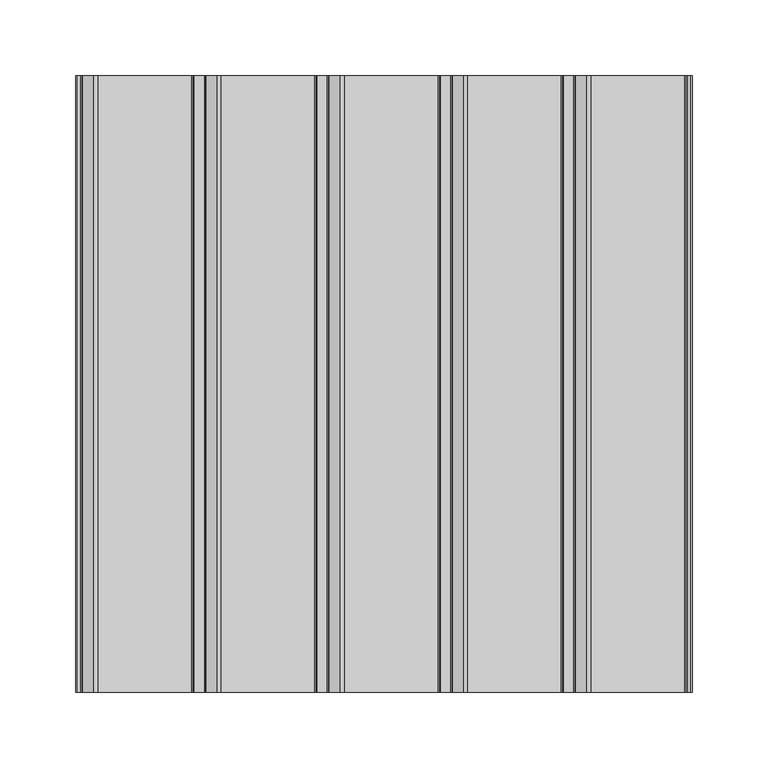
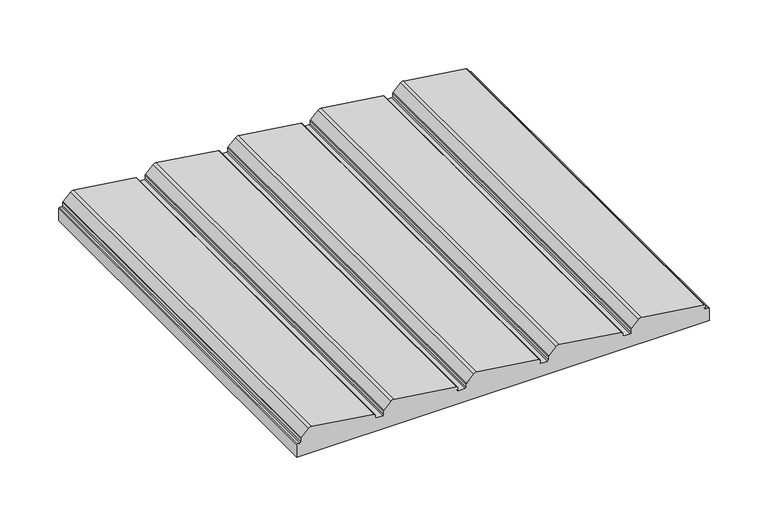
"""IFC4 building model written with IfcOpenShell, lengths in millimetres: proxy geometry, Spinneybeck_Porto 3 : Porto 3."""

from ifc_helpers import new_model, si_unit, point, frame, frame_2d, origin, place, context, project, spatial, polyline, circle_curve, trimmed, segment, composite_curve, outline, extrude, source, transform, mapped, element, save


def specialty_equipment_dc48855c(model_context):
    return source(origin(), model_context, "Body", "SweptSolid", [
        extrude(outline(composite_curve([segment(polyline([(0.0, -203.2), (0.0, 203.2), (12.5078125, 203.2)]), True, "CONTINUOUS"), segment(trimmed(circle_curve(frame_2d((12.5078125, 202.2078125)), 0.9921875), [point((12.5078125, 203.2))], [point((13.5, 202.2078125))], False, "CARTESIAN"), True, "CONTINUOUS"), segment(polyline([(13.5, 202.2078125), (13.5, 199.9465867)]), True, "CONTINUOUS"), segment(trimmed(circle_curve(frame_2d((14.4921875, 199.9465867)), 0.9921875), [point((13.5, 199.9465867))], [point((14.4921875, 198.9543992))], True, "CARTESIAN"), True, "CONTINUOUS"), segment(polyline([(14.4921875, 198.9543992), (17.1606187, 198.9543992)]), True, "CONTINUOUS"), segment(trimmed(circle_curve(frame_2d((17.1606187, 197.9749387)), 0.9794605), [point((17.1606187, 198.9543992))], [point((18.1109851, 198.2118916))], False, "CARTESIAN"), True, "CONTINUOUS"), segment(polyline([(18.1109851, 198.2118916), (26.76592, 136.6288293)]), True, "CONTINUOUS"), segment(trimmed(circle_curve(frame_2d((23.4253126, 136.1593376)), 3.3734375), [point((26.76592, 136.6288293))], [point((25.8106931, 133.773957))], False, "CARTESIAN"), True, "CONTINUOUS"), segment(polyline([(25.8106931, 133.773957), (18.5722569, 126.5355208)]), True, "CONTINUOUS"), segment(trimmed(circle_curve(frame_2d((17.6791911, 127.4285866)), 1.2629857), [point((18.5722569, 126.5355208))], [point((17.6791911, 126.1656008))], False, "CARTESIAN"), True, "CONTINUOUS"), segment(polyline([(17.6791911, 126.1656008), (14.4921875, 126.1656008)]), True, "CONTINUOUS"), segment(trimmed(circle_curve(frame_2d((14.4921875, 125.1734133)), 0.9921875), [point((14.4921875, 126.1656008))], [point((13.5, 125.1734133))], True, "CARTESIAN"), True, "CONTINUOUS"), segment(polyline([(13.5, 125.1734133), (13.5, 118.6665867)]), True, "CONTINUOUS"), segment(trimmed(circle_curve(frame_2d((14.4921875, 118.6665867)), 0.9921875), [point((13.5, 118.6665867))], [point((14.4921875, 117.6743992))], True, "CARTESIAN"), True, "CONTINUOUS"), segment(polyline([(14.4921875, 117.6743992), (17.1606187, 117.6743992)]), True, "CONTINUOUS"), segment(trimmed(circle_curve(frame_2d((17.1606187, 116.6949387)), 0.9794605), [point((17.1606187, 117.6743992))], [point((18.1109851, 116.9318916))], False, "CARTESIAN"), True, "CONTINUOUS"), segment(polyline([(18.1109851, 116.9318916), (26.76592, 55.3488293)]), True, "CONTINUOUS"), segment(trimmed(circle_curve(frame_2d((23.4253126, 54.8793376)), 3.3734375), [point((26.76592, 55.3488293))], [point((25.8106931, 52.493957))], False, "CARTESIAN"), True, "CONTINUOUS"), segment(polyline([(25.8106931, 52.493957), (18.5722569, 45.2555208)]), True, "CONTINUOUS"), segment(trimmed(circle_curve(frame_2d((17.6791911, 46.1485866)), 1.2629857), [point((18.5722569, 45.2555208))], [point((17.6791911, 44.8856008))], False, "CARTESIAN"), True, "CONTINUOUS"), segment(polyline([(17.6791911, 44.8856008), (14.4921875, 44.8856008)]), True, "CONTINUOUS"), segment(trimmed(circle_curve(frame_2d((14.4921875, 43.8934133)), 0.9921875), [point((14.4921875, 44.8856008))], [point((13.5, 43.8934133))], True, "CARTESIAN"), True, "CONTINUOUS"), segment(polyline([(13.5, 43.8934133), (13.5, 37.3865867)]), True, "CONTINUOUS"), segment(trimmed(circle_curve(frame_2d((14.4921875, 37.3865867)), 0.9921875), [point((13.5, 37.3865867))], [point((14.4921875, 36.3943992))], True, "CARTESIAN"), True, "CONTINUOUS"), segment(polyline([(14.4921875, 36.3943992), (17.1606187, 36.3943992)]), True, "CONTINUOUS"), segment(trimmed(circle_curve(frame_2d((17.1606187, 35.4149387)), 0.9794605), [point((17.1606187, 36.3943992))], [point((18.1109851, 35.6518916))], False, "CARTESIAN"), True, "CONTINUOUS"), segment(polyline([(18.1109851, 35.6518916), (26.76592, -25.9311707)]), True, "CONTINUOUS"), segment(trimmed(circle_curve(frame_2d((23.4253126, -26.4006624)), 3.3734375), [point((26.76592, -25.9311707))], [point((25.8106931, -28.786043))], False, "CARTESIAN"), True, "CONTINUOUS"), segment(polyline([(25.8106931, -28.786043), (18.5722569, -36.0244792)]), True, "CONTINUOUS"), segment(trimmed(circle_curve(frame_2d((17.6791911, -35.1314134)), 1.2629857), [point((18.5722569, -36.0244792))], [point((17.6791911, -36.3943992))], False, "CARTESIAN"), True, "CONTINUOUS"), segment(polyline([(17.6791911, -36.3943992), (14.4921875, -36.3943992)]), True, "CONTINUOUS"), segment(trimmed(circle_curve(frame_2d((14.4921875, -37.3865867)), 0.9921875), [point((14.4921875, -36.3943992))], [point((13.5, -37.3865867))], True, "CARTESIAN"), True, "CONTINUOUS"), segment(polyline([(13.5, -37.3865867), (13.5, -43.8934133)]), True, "CONTINUOUS"), segment(trimmed(circle_curve(frame_2d((14.4921875, -43.8934133)), 0.9921875), [point((13.5, -43.8934133))], [point((14.4921875, -44.8856008))], True, "CARTESIAN"), True, "CONTINUOUS"), segment(polyline([(14.4921875, -44.8856008), (17.1606187, -44.8856008)]), True, "CONTINUOUS"), segment(trimmed(circle_curve(frame_2d((17.1606187, -45.8650613)), 0.9794605), [point((17.1606187, -44.8856008))], [point((18.1109851, -45.6281084))], False, "CARTESIAN"), True, "CONTINUOUS"), segment(polyline([(18.1109851, -45.6281084), (26.76592, -107.2111707)]), True, "CONTINUOUS"), segment(trimmed(circle_curve(frame_2d((23.4253126, -107.6806624)), 3.3734375), [point((26.76592, -107.2111707))], [point((25.8106931, -110.066043))], False, "CARTESIAN"), True, "CONTINUOUS"), segment(polyline([(25.8106931, -110.066043), (18.5722569, -117.3044792)]), True, "CONTINUOUS"), segment(trimmed(circle_curve(frame_2d((17.6791911, -116.4114134)), 1.2629857), [point((18.5722569, -117.3044792))], [point((17.6791911, -117.6743992))], False, "CARTESIAN"), True, "CONTINUOUS"), segment(polyline([(17.6791911, -117.6743992), (14.4921875, -117.6743992)]), True, "CONTINUOUS"), segment(trimmed(circle_curve(frame_2d((14.4921875, -118.6665867)), 0.9921875), [point((14.4921875, -117.6743992))], [point((13.5, -118.6665867))], True, "CARTESIAN"), True, "CONTINUOUS"), segment(polyline([(13.5, -118.6665867), (13.5, -125.1734133)]), True, "CONTINUOUS"), segment(trimmed(circle_curve(frame_2d((14.4921875, -125.1734133)), 0.9921875), [point((13.5, -125.1734133))], [point((14.4921875, -126.1656008))], True, "CARTESIAN"), True, "CONTINUOUS"), segment(polyline([(14.4921875, -126.1656008), (17.1606187, -126.1656008)]), True, "CONTINUOUS"), segment(trimmed(circle_curve(frame_2d((17.1606187, -127.1450613)), 0.9794605), [point((17.1606187, -126.1656008))], [point((18.1109851, -126.9081084))], False, "CARTESIAN"), True, "CONTINUOUS"), segment(polyline([(18.1109851, -126.9081084), (26.76592, -188.4911707)]), True, "CONTINUOUS"), segment(trimmed(circle_curve(frame_2d((23.4253126, -188.9606624)), 3.3734375), [point((26.76592, -188.4911707))], [point((25.8106931, -191.346043))], False, "CARTESIAN"), True, "CONTINUOUS"), segment(polyline([(25.8106931, -191.346043), (18.5722569, -198.5844792)]), True, "CONTINUOUS"), segment(trimmed(circle_curve(frame_2d((17.6791911, -197.6914134)), 1.2629857), [point((18.5722569, -198.5844792))], [point((17.6791911, -198.9543992))], False, "CARTESIAN"), True, "CONTINUOUS"), segment(polyline([(17.6791911, -198.9543992), (14.4921875, -198.9543992)]), True, "CONTINUOUS"), segment(trimmed(circle_curve(frame_2d((14.4921875, -199.9465867)), 0.9921875), [point((14.4921875, -198.9543992))], [point((13.5, -199.9465867))], True, "CARTESIAN"), True, "CONTINUOUS"), segment(polyline([(13.5, -199.9465867), (13.5, -202.2078125)]), True, "CONTINUOUS"), segment(trimmed(circle_curve(frame_2d((12.5078125, -202.2078125)), 0.9921875), [point((13.5, -202.2078125))], [point((12.5078125, -203.2))], False, "CARTESIAN"), True, "CONTINUOUS"), segment(polyline([(12.5078125, -203.2), (0.0, -203.2)]), True, "CONTINUOUS")], self_intersect=False)), frame((0.0, -203.2, 0.0), z_axis=(0.0, 1.0, 0.0), x_axis=(0.0, 0.0, 1.0)), (0.0, 0.0, 1.0), 406.4),
    ])


if __name__ == "__main__":
    model = new_model("IFC4")
    model_context = context("Model", 3, world=origin())
    ifc_project = project(units=[si_unit("LENGTHUNIT", "METRE", prefix="MILLI")], contexts=[model_context])
    site = spatial("IfcSite", under=ifc_project)
    building = spatial("IfcBuilding", under=site)
    placement = place(None, origin())
    specialty_equipment_shape = specialty_equipment_dc48855c(model_context)
    element("IfcBuildingElementProxy", 1, Name="Spinneybeck_Porto 3 : Porto 3", ObjectType="Spinneybeck_Porto 3 : Porto 3", at=placement, inside=building, context=model_context, shape_type="MappedRepresentation", body=[
        mapped(specialty_equipment_shape, transform((0.0, 0.0, 0.0), x_axis=(1.0, 0.0, 0.0), y_axis=(0.0, 1.0, 0.0), z_axis=(0.0, 0.0, 1.0))),
    ])
    save(model, "model.ifc")
